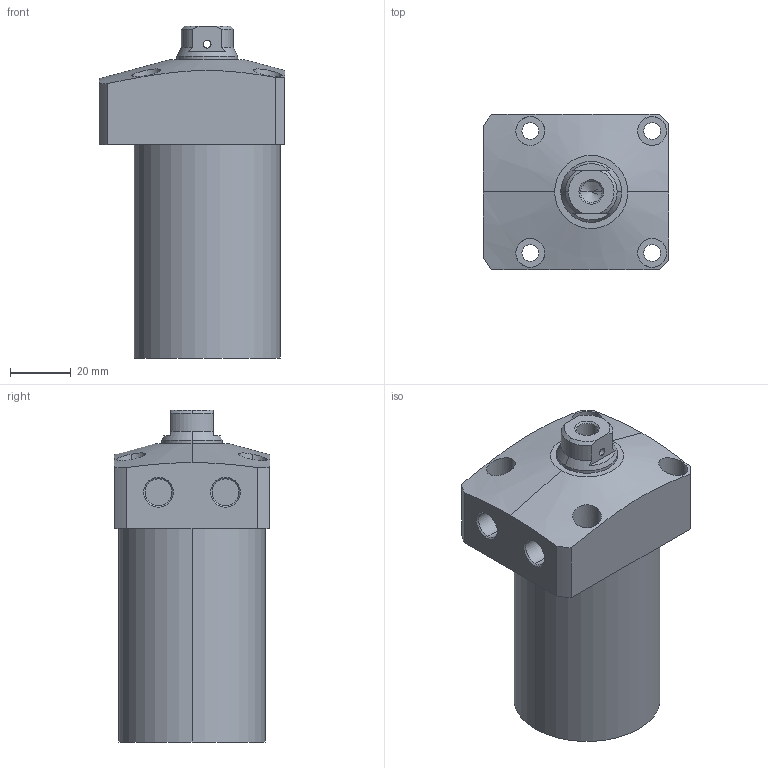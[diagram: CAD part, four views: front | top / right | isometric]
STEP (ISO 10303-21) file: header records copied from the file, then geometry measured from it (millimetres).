
FILE_DESCRIPTION (( 'STEP AP203' ), '1' );
FILE_NAME ('CLL-0480-CB-60.STEP', '2017-05-09T03:14:23', ( '' ), ( '' ), 'SwSTEP 2.0', 'SolidWorks 2015', '' );
FILE_SCHEMA (( 'CONFIG_CONTROL_DESIGN' ));
Length unit declared in the file: millimetre
Products named in the file (1): CLL-0480-CB-60
Bounding box: 61 x 51 x 109 mm (x, y, z)
Volume: 201238.9 mm3; surface area: 25157.5 mm2
Topology: 1 solids, 1 shells, 76 faces, 181 edges, 116 vertices
Faces by surface type: cylinder 39, plane 22, cone 15
Entity records: 2695 total; most frequent: CARTESIAN_POINT 818, DIRECTION 386, ORIENTED_EDGE 358, EDGE_CURVE 179, AXIS2_PLACEMENT_3D 158, VERTEX_POINT 116, EDGE_LOOP 99, CIRCLE 81
